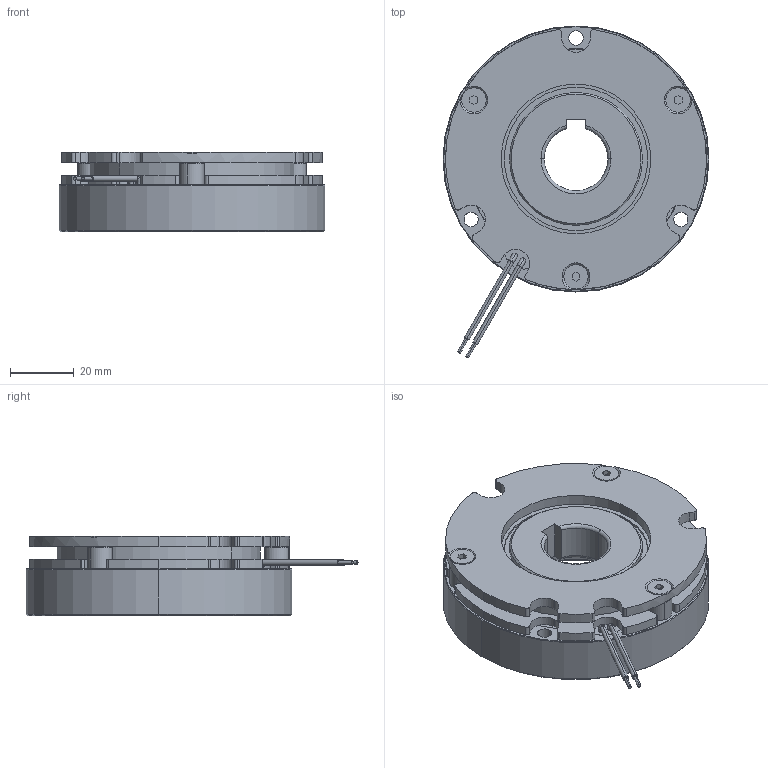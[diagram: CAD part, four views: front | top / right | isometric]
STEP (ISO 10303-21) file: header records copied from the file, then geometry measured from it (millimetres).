
FILE_DESCRIPTION (( 'STEP AP214' ), '1' );
FILE_NAME ('ÌÞÚ°·_BXR-06-20_A.STEP', '2017-08-01T08:02:05', ( 'MIKI' ), ( '' ), 'SwSTEP 2.0', 'SolidWorks 2012', '' );
FILE_SCHEMA (( 'AUTOMOTIVE_DESIGN' ));
Length unit declared in the file: millimetre
Products named in the file (1): 枌痚愷BXR-06-20_A
Bounding box: 83.5 x 104.24 x 25 mm (x, y, z)
Volume: 91898.3 mm3; surface area: 36156.8 mm2
Topology: 1 solids, 4 shells, 304 faces, 745 edges, 474 vertices
Faces by surface type: cylinder 156, plane 85, cone 49, torus 14
Entity records: 12540 total; most frequent: DIRECTION 1750, CARTESIAN_POINT 1577, ORIENTED_EDGE 1490, EDGE_CURVE 745, AXIS2_PLACEMENT_3D 709, VERTEX_POINT 474, CIRCLE 404, EDGE_LOOP 361
